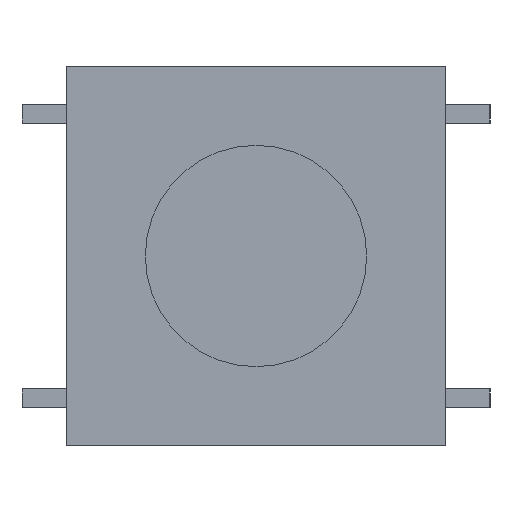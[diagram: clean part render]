
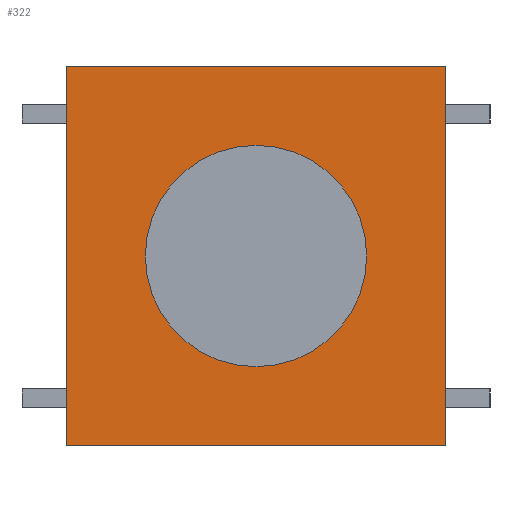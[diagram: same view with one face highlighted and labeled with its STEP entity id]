
A CAD part, left-side view. The second image highlights one B-rep face of the part: STEP entity #322.
In plain terms, the highlighted planar face has unit normal (-1, 0, 0).
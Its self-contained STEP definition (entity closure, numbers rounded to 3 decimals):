
#70 = PLANE('',#71);
#71 = AXIS2_PLACEMENT_3D('',#72,#73,#74);
#72 = CARTESIAN_POINT('',(-34.6,17.,-6.2));
#73 = DIRECTION('',(0.,0.,1.));
#74 = DIRECTION('',(1.,0.,-0.));
#95 = VERTEX_POINT('',#96);
#96 = CARTESIAN_POINT('',(-36.4,20.,-6.2));
#110 = PLANE('',#111);
#111 = AXIS2_PLACEMENT_3D('',#112,#113,#114);
#112 = CARTESIAN_POINT('',(-34.6,20.,-9.2));
#113 = DIRECTION('',(0.,-1.,0.));
#114 = DIRECTION('',(0.,0.,-1.));
#122 = EDGE_CURVE('',#95,#123,#125,.T.);
#123 = VERTEX_POINT('',#124);
#124 = CARTESIAN_POINT('',(-36.4,14.,-6.2));
#125 = SURFACE_CURVE('',#126,(#130,#137),.PCURVE_S1.);
#126 = LINE('',#127,#128);
#127 = CARTESIAN_POINT('',(-36.4,17.,-6.2));
#128 = VECTOR('',#129,1.);
#129 = DIRECTION('',(0.,-1.,0.));
#130 = PCURVE('',#70,#131);
#131 = DEFINITIONAL_REPRESENTATION('',(#132),#136);
#132 = LINE('',#133,#134);
#133 = CARTESIAN_POINT('',(-1.8,0.));
#134 = VECTOR('',#135,1.);
#135 = DIRECTION('',(0.,-1.));
#136 = ( GEOMETRIC_REPRESENTATION_CONTEXT(2) 
PARAMETRIC_REPRESENTATION_CONTEXT() REPRESENTATION_CONTEXT('2D SPACE',''
  ) );
#137 = PCURVE('',#138,#143);
#138 = PLANE('',#139);
#139 = AXIS2_PLACEMENT_3D('',#140,#141,#142);
#140 = CARTESIAN_POINT('',(-36.4,17.,-9.2));
#141 = DIRECTION('',(1.,0.,0.));
#142 = DIRECTION('',(0.,0.,-1.));
#143 = DEFINITIONAL_REPRESENTATION('',(#144),#148);
#144 = LINE('',#145,#146);
#145 = CARTESIAN_POINT('',(-3.,0.));
#146 = VECTOR('',#147,1.);
#147 = DIRECTION('',(0.,-1.));
#148 = ( GEOMETRIC_REPRESENTATION_CONTEXT(2) 
PARAMETRIC_REPRESENTATION_CONTEXT() REPRESENTATION_CONTEXT('2D SPACE',''
  ) );
#164 = PLANE('',#165);
#165 = AXIS2_PLACEMENT_3D('',#166,#167,#168);
#166 = CARTESIAN_POINT('',(-34.6,14.,-9.2));
#167 = DIRECTION('',(0.,1.,0.));
#168 = DIRECTION('',(0.,-0.,1.));
#190 = PLANE('',#191);
#191 = AXIS2_PLACEMENT_3D('',#192,#193,#194);
#192 = CARTESIAN_POINT('',(-34.6,17.,-12.2));
#193 = DIRECTION('',(0.,0.,1.));
#194 = DIRECTION('',(1.,0.,-0.));
#210 = VERTEX_POINT('',#211);
#211 = CARTESIAN_POINT('',(-36.4,14.,-12.2));
#232 = EDGE_CURVE('',#210,#233,#235,.T.);
#233 = VERTEX_POINT('',#234);
#234 = CARTESIAN_POINT('',(-36.4,20.,-12.2));
#235 = SURFACE_CURVE('',#236,(#240,#247),.PCURVE_S1.);
#236 = LINE('',#237,#238);
#237 = CARTESIAN_POINT('',(-36.4,17.,-12.2));
#238 = VECTOR('',#239,1.);
#239 = DIRECTION('',(0.,1.,0.));
#240 = PCURVE('',#190,#241);
#241 = DEFINITIONAL_REPRESENTATION('',(#242),#246);
#242 = LINE('',#243,#244);
#243 = CARTESIAN_POINT('',(-1.8,0.));
#244 = VECTOR('',#245,1.);
#245 = DIRECTION('',(0.,1.));
#246 = ( GEOMETRIC_REPRESENTATION_CONTEXT(2) 
PARAMETRIC_REPRESENTATION_CONTEXT() REPRESENTATION_CONTEXT('2D SPACE',''
  ) );
#247 = PCURVE('',#138,#248);
#248 = DEFINITIONAL_REPRESENTATION('',(#249),#253);
#249 = LINE('',#250,#251);
#250 = CARTESIAN_POINT('',(3.,0.));
#251 = VECTOR('',#252,1.);
#252 = DIRECTION('',(0.,1.));
#253 = ( GEOMETRIC_REPRESENTATION_CONTEXT(2) 
PARAMETRIC_REPRESENTATION_CONTEXT() REPRESENTATION_CONTEXT('2D SPACE',''
  ) );
#279 = EDGE_CURVE('',#123,#210,#280,.T.);
#280 = SURFACE_CURVE('',#281,(#285,#292),.PCURVE_S1.);
#281 = LINE('',#282,#283);
#282 = CARTESIAN_POINT('',(-36.4,14.,-9.2));
#283 = VECTOR('',#284,1.);
#284 = DIRECTION('',(0.,0.,-1.));
#285 = PCURVE('',#164,#286);
#286 = DEFINITIONAL_REPRESENTATION('',(#287),#291);
#287 = LINE('',#288,#289);
#288 = CARTESIAN_POINT('',(0.,-1.8));
#289 = VECTOR('',#290,1.);
#290 = DIRECTION('',(-1.,0.));
#291 = ( GEOMETRIC_REPRESENTATION_CONTEXT(2) 
PARAMETRIC_REPRESENTATION_CONTEXT() REPRESENTATION_CONTEXT('2D SPACE',''
  ) );
#292 = PCURVE('',#138,#293);
#293 = DEFINITIONAL_REPRESENTATION('',(#294),#298);
#294 = LINE('',#295,#296);
#295 = CARTESIAN_POINT('',(0.,-3.));
#296 = VECTOR('',#297,1.);
#297 = DIRECTION('',(1.,0.));
#298 = ( GEOMETRIC_REPRESENTATION_CONTEXT(2) 
PARAMETRIC_REPRESENTATION_CONTEXT() REPRESENTATION_CONTEXT('2D SPACE',''
  ) );
#322 = ADVANCED_FACE('',(#323),#138,.F.);
#323 = FACE_BOUND('',#324,.T.);
#324 = EDGE_LOOP('',(#325,#346,#347,#348));
#325 = ORIENTED_EDGE('',*,*,#326,.T.);
#326 = EDGE_CURVE('',#95,#233,#327,.T.);
#327 = SURFACE_CURVE('',#328,(#332,#339),.PCURVE_S1.);
#328 = LINE('',#329,#330);
#329 = CARTESIAN_POINT('',(-36.4,20.,-9.2));
#330 = VECTOR('',#331,1.);
#331 = DIRECTION('',(0.,0.,-1.));
#332 = PCURVE('',#138,#333);
#333 = DEFINITIONAL_REPRESENTATION('',(#334),#338);
#334 = LINE('',#335,#336);
#335 = CARTESIAN_POINT('',(0.,3.));
#336 = VECTOR('',#337,1.);
#337 = DIRECTION('',(1.,0.));
#338 = ( GEOMETRIC_REPRESENTATION_CONTEXT(2) 
PARAMETRIC_REPRESENTATION_CONTEXT() REPRESENTATION_CONTEXT('2D SPACE',''
  ) );
#339 = PCURVE('',#110,#340);
#340 = DEFINITIONAL_REPRESENTATION('',(#341),#345);
#341 = LINE('',#342,#343);
#342 = CARTESIAN_POINT('',(0.,-1.8));
#343 = VECTOR('',#344,1.);
#344 = DIRECTION('',(1.,0.));
#345 = ( GEOMETRIC_REPRESENTATION_CONTEXT(2) 
PARAMETRIC_REPRESENTATION_CONTEXT() REPRESENTATION_CONTEXT('2D SPACE',''
  ) );
#346 = ORIENTED_EDGE('',*,*,#232,.F.);
#347 = ORIENTED_EDGE('',*,*,#279,.F.);
#348 = ORIENTED_EDGE('',*,*,#122,.F.);
